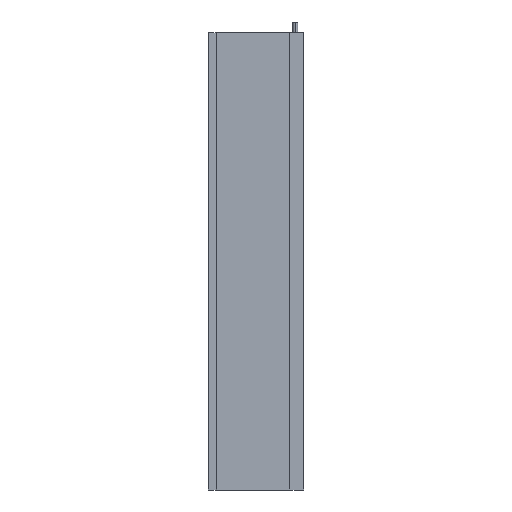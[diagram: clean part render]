
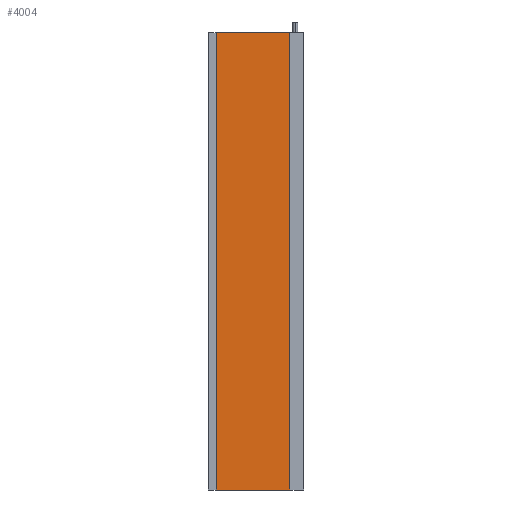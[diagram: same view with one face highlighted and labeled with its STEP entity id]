
A CAD part, left-side view. The second image highlights one B-rep face of the part: STEP entity #4004.
In plain terms, the highlighted planar face has unit normal (-1, 0, 0).
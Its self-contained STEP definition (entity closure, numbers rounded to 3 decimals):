
#52 = CARTESIAN_POINT ( 'NONE',  ( -5.31, -15.5, 841. ) ) ;
#196 = VECTOR ( 'NONE', #2174, 1000. ) ;
#323 = CARTESIAN_POINT ( 'NONE',  ( -5.31, -149.9, 841. ) ) ;
#343 = VECTOR ( 'NONE', #1265, 1000. ) ;
#376 = VERTEX_POINT ( 'NONE', #3515 ) ;
#424 = VERTEX_POINT ( 'NONE', #52 ) ;
#426 = ORIENTED_EDGE ( 'NONE', *, *, #3151, .F. ) ;
#459 = LINE ( 'NONE', #4196, #196 ) ;
#632 = CARTESIAN_POINT ( 'NONE',  ( -5.31, -149.9, 841. ) ) ;
#706 = FACE_OUTER_BOUND ( 'NONE', #1259, .T. ) ;
#887 = LINE ( 'NONE', #323, #2272 ) ;
#964 = CARTESIAN_POINT ( 'NONE',  ( -5.31, -149.9, 841. ) ) ;
#1259 = EDGE_LOOP ( 'NONE', ( #4394, #1481, #426, #3400 ) ) ;
#1265 = DIRECTION ( 'NONE',  ( 0., -1., 0. ) ) ;
#1481 = ORIENTED_EDGE ( 'NONE', *, *, #2681, .F. ) ;
#1952 = CARTESIAN_POINT ( 'NONE',  ( -5.31, -149.9, 0. ) ) ;
#2005 = DIRECTION ( 'NONE',  ( 0., -1., 0. ) ) ;
#2174 = DIRECTION ( 'NONE',  ( 0., 0., -1. ) ) ;
#2272 = VECTOR ( 'NONE', #2005, 1000. ) ;
#2354 = VERTEX_POINT ( 'NONE', #964 ) ;
#2377 = AXIS2_PLACEMENT_3D ( 'NONE', #632, #3371, #3727 ) ;
#2625 = CARTESIAN_POINT ( 'NONE',  ( -5.31, -15.5, 841. ) ) ;
#2681 = EDGE_CURVE ( 'NONE', #2354, #2827, #459, .T. ) ;
#2701 = PLANE ( 'NONE',  #2377 ) ;
#2827 = VERTEX_POINT ( 'NONE', #1952 ) ;
#3052 = LINE ( 'NONE', #3966, #343 ) ;
#3151 = EDGE_CURVE ( 'NONE', #424, #2354, #887, .T. ) ;
#3266 = VECTOR ( 'NONE', #3274, 1000. ) ;
#3274 = DIRECTION ( 'NONE',  ( 0., 0., -1. ) ) ;
#3333 = LINE ( 'NONE', #2625, #3266 ) ;
#3371 = DIRECTION ( 'NONE',  ( 1., 0., 0. ) ) ;
#3400 = ORIENTED_EDGE ( 'NONE', *, *, #3777, .T. ) ;
#3515 = CARTESIAN_POINT ( 'NONE',  ( -5.31, -15.5, 0. ) ) ;
#3727 = DIRECTION ( 'NONE',  ( 0., 1., 0. ) ) ;
#3747 = EDGE_CURVE ( 'NONE', #376, #2827, #3052, .T. ) ;
#3777 = EDGE_CURVE ( 'NONE', #424, #376, #3333, .T. ) ;
#3966 = CARTESIAN_POINT ( 'NONE',  ( -5.31, -149.9, 0. ) ) ;
#4004 = ADVANCED_FACE ( 'NONE', ( #706 ), #2701, .F. ) ;
#4196 = CARTESIAN_POINT ( 'NONE',  ( -5.31, -149.9, 841. ) ) ;
#4394 = ORIENTED_EDGE ( 'NONE', *, *, #3747, .T. ) ;
